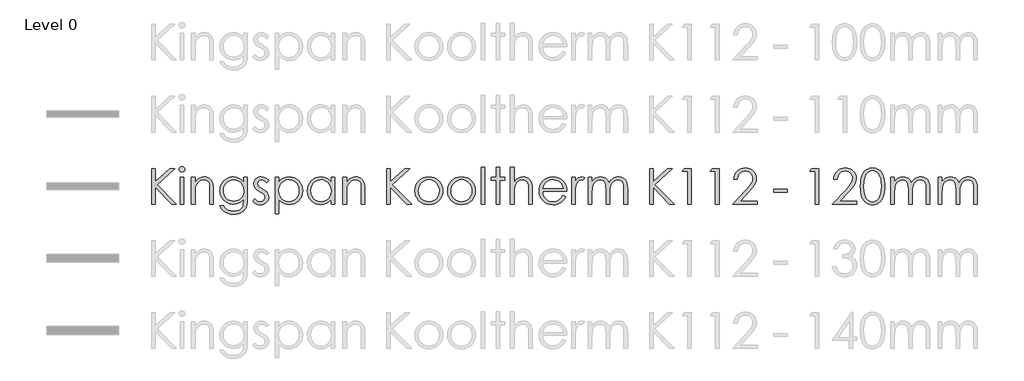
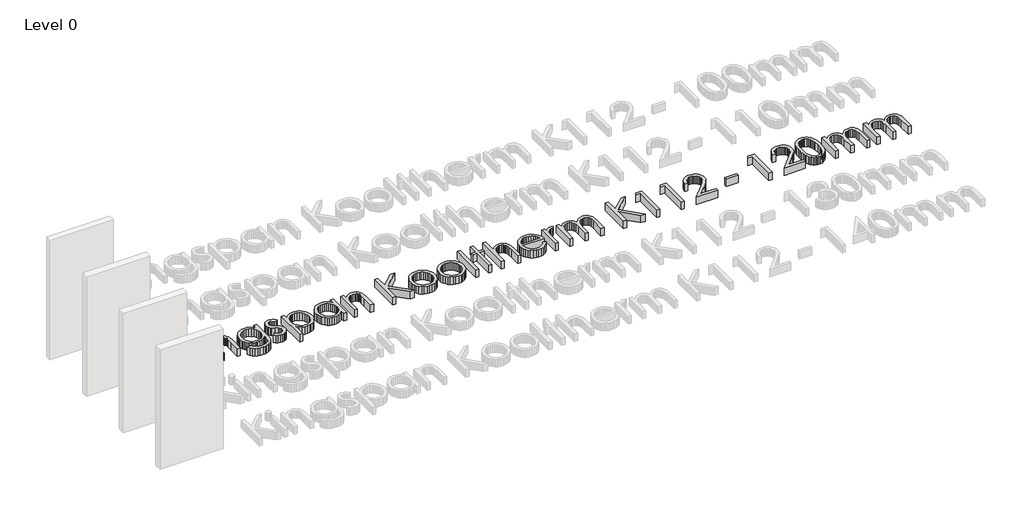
# One storey, part 4 of 14: 1 proxy.
"""IFC4 building model written with IfcOpenShell, lengths in millimetres."""

from ifc_helpers import new_model, si_unit, origin, origin_with_axes, place, context, project, spatial, polyline, outline, extrude, element, save

model = new_model("IFC4")

# Units and contexts
model_context = context("Model", 3, world=origin())
ifc_project = project(units=[si_unit("LENGTHUNIT", "METRE", prefix="MILLI")], contexts=[model_context])

# Site, building, storey
site = spatial("IfcSite", under=ifc_project)
building = spatial("IfcBuilding", under=site)
storey = spatial("IfcBuildingStorey", under=building, Name="Level 0", Elevation=0.0)

# Proxy
placement = place(None, origin())
element("IfcBuildingElementProxy", 1, Name="600mm KI_CenturyGothic", ObjectType="600mm KI_CenturyGothic", at=placement, inside=storey, context=model_context, shape_type="SweptSolid", body=[
    extrude(outline(polyline([(-3852.2663848, -6099.1034017), (-3792.944575, -6099.1034017), (-3792.944575, -6318.316027), (-3555.1938841, -6099.1034017), (-3471.6181051, -6099.1034017), (-3760.9664119, -6366.0515459), (-3441.9572002, -6692.3214999), (-3520.8984627, -6692.3214999), (-3792.944575, -6414.0960325), (-3792.944575, -6692.3214999), (-3852.2663848, -6692.3214999), (-3852.2663848, -6099.1034017)])), origin_with_axes(), (0.0, 0.0, 1.0), 150.0),
    extrude(outline(polyline([(-3348.1854852, -6069.4424967), (-3329.145347, -6072.7252792), (-3313.1176445, -6082.5736265), (-3302.226531, -6097.0178693), (-3298.5961598, -6114.088338), (-3302.226531, -6130.9270809), (-3313.1176445, -6145.2940817), (-3329.145347, -6155.142429), (-3348.1854852, -6158.4252115), (-3366.9938975, -6155.142429), (-3382.9443581, -6145.2940817), (-3393.8354717, -6130.9270809), (-3397.4658428, -6114.088338), (-3393.8354717, -6097.0178693), (-3382.9443581, -6082.5736265), (-3366.9938975, -6072.7252792), (-3348.1854852, -6069.4424967)])), origin_with_axes(), (0.0, 0.0, 1.0), 150.0),
    extrude(outline(polyline([(-3377.6919062, -6247.4079262), (-3318.3700964, -6247.4079262), (-3318.3700964, -6692.3214999), (-3377.6919062, -6692.3214999), (-3377.6919062, -6247.4079262)])), origin_with_axes(), (0.0, 0.0, 1.0), 150.0),
    extrude(outline(polyline([(-3189.8395084, -6247.4079262), (-3130.5176986, -6247.4079262), (-3130.5176986, -6326.5036726), (-3096.9946967, -6286.9944204), (-3060.0730495, -6259.303185), (-3019.7141359, -6242.9665147), (-2975.879335, -6237.5209579), (-2953.4357238, -6239.0995901), (-2932.2955704, -6243.8354865), (-2912.4588747, -6251.7286472), (-2893.9256368, -6262.7790723), (-2877.212412, -6276.5039994), (-2862.835756, -6292.4206667), (-2841.0921499, -6330.8292213), (-2833.6238199, -6355.2087086), (-2828.2892984, -6385.5551357), (-2824.0216812, -6464.1488095), (-2824.0216812, -6692.3214999), (-2883.343491, -6692.3214999), (-2883.343491, -6479.1337458), (-2883.343491, -6376.092998), (-2884.7290183, -6355.2956057), (-2889.8125035, -6337.2403023), (-2898.2849788, -6321.9270877), (-2910.1464442, -6309.355962), (-2924.7403432, -6299.5558909), (-2941.4101193, -6292.5558401), (-2980.977303, -6286.9557994), (-3005.3471351, -6289.1137461), (-3028.4038541, -6295.5875862), (-3050.1474602, -6306.3773197), (-3070.5779533, -6321.4829466), (-3088.6622225, -6339.7651482), (-3103.3671568, -6360.084606), (-3114.6927562, -6382.44132), (-3122.6390208, -6406.8352901), (-3128.5480292, -6453.9142525), (-3130.5176986, -6528.4141035), (-3130.5176986, -6692.3214999), (-3189.8395084, -6692.3214999), (-3189.8395084, -6247.4079262)])), origin_with_axes(), (0.0, 0.0, 1.0), 150.0),
    extrude(outline(polyline([(-2319.7862977, -6247.4079262), (-2260.4644879, -6247.4079262), (-2260.4644879, -6598.395301), (-2264.5196897, -6678.6496765), (-2269.588692, -6709.4499001), (-2276.6852953, -6734.0321474), (-2289.9371156, -6762.6454585), (-2307.2924139, -6787.7732271), (-2328.7511904, -6809.4154531), (-2354.3134448, -6827.5721366), (-2383.3226209, -6841.9343098), (-2415.122162, -6852.1930049), (-2449.7120682, -6858.348222), (-2487.0923395, -6860.3999611), (-2541.0458345, -6856.3833802), (-2589.206184, -6844.3336376), (-2630.260275, -6825.5059147), (-2662.8949946, -6801.1553932), (-2690.2000204, -6767.8061856), (-2715.2650299, -6721.9824048), (-2655.94322, -6721.9824048), (-2642.4355358, -6743.151524), (-2627.0933555, -6761.3951046), (-2609.9166791, -6776.7131468), (-2590.9055067, -6789.1056506), (-2569.7894914, -6798.6691682), (-2546.2982864, -6805.5002523), (-2492.1903075, -6810.9651195), (-2438.5071593, -6805.6354257), (-2415.083541, -6798.9733084), (-2393.93856, -6789.6463441), (-2359.6624492, -6765.6047903), (-2336.8567664, -6736.1176798), (-2329.3884364, -6717.4782342), (-2324.0539149, -6693.7697863), (-2319.7862977, -6631.1458835), (-2319.7862977, -6608.4367532), (-2354.757586, -6644.2190818), (-2396.6420279, -6670.6165148), (-2443.392712, -6686.8952536), (-2492.9627269, -6692.3214999), (-2522.4063889, -6690.4242447), (-2550.9521133, -6684.7324793), (-2578.5999001, -6675.2462036), (-2605.3497494, -6661.9654175), (-2630.1540674, -6645.4742634), (-2651.9652601, -6626.3568832), (-2670.7833277, -6604.6132772), (-2686.6082702, -6580.2434451), (-2699.1456025, -6553.9280817), (-2708.1008399, -6526.3478816), (-2713.4739824, -6497.5028447), (-2715.2650299, -6467.392971), (-2713.3967404, -6437.1044753), (-2707.7918722, -6407.8780563), (-2698.4504251, -6379.713714), (-2685.3723991, -6352.6114483), (-2668.9971079, -6327.4257483), (-2649.7638648, -6305.0111029), (-2627.67267, -6285.367512), (-2602.7235235, -6268.4949758), (-2575.9833294, -6254.943843), (-2548.5189922, -6245.2644624), (-2520.3305117, -6239.456834), (-2491.4178881, -6237.5209579), (-2444.5320306, -6242.4644421), (-2400.8903346, -6257.2948945), (-2359.6045177, -6283.8661218), (-2319.7862977, -6324.0319306), (-2319.7862977, -6247.4079262)]), holes=[polyline([(-2484.1571458, -6286.9557994), (-2529.0154023, -6292.9806707), (-2570.5908765, -6311.0552847), (-2606.2187212, -6339.7699758), (-2633.2340897, -6377.7150788), (-2650.2659375, -6421.9940208), (-2655.94322, -6469.7102292), (-2653.0080263, -6505.6229036), (-2644.2024452, -6538.2817613), (-2629.5264766, -6567.6868023), (-2608.9801206, -6593.8380266), (-2583.7606272, -6615.296803), (-2555.0652466, -6630.6245004), (-2522.8939786, -6639.8211189), (-2487.2468234, -6642.8866584), (-2451.3244937, -6639.845257), (-2419.1001219, -6630.7210528), (-2390.573708, -6615.5140459), (-2365.7452519, -6594.2242363), (-2345.6382095, -6567.9812872), (-2331.2760363, -6537.9148621), (-2322.6587323, -6504.024961), (-2319.7862977, -6466.3115838), (-2325.0773706, -6417.6105407), (-2340.9505892, -6374.3936754), (-2366.4983608, -6338.1672056), (-2400.8130926, -6310.4373492), (-2440.9982119, -6292.8261869), (-2484.1571458, -6286.9557994)])]), origin_with_axes(), (0.0, 0.0, 1.0), 150.0),
    extrude(outline(polyline([(-1904.5336289, -6298.6965743), (-1940.9918246, -6336.390641), (-1962.9575012, -6314.7628978), (-1984.6721416, -6299.3145098), (-2006.1357456, -6290.045477), (-2027.3483133, -6286.9557994), (-2052.181597, -6291.6289368), (-2073.2300256, -6305.6483489), (-2087.5970264, -6325.8857371), (-2092.3860267, -6349.212803), (-2088.4466878, -6370.7633042), (-2076.628671, -6391.2324183), (-2052.0657341, -6413.400855), (-2010.2006027, -6439.122421), (-1958.3326401, -6471.9888664), (-1939.8428507, -6487.8138088), (-1926.315856, -6503.2332311), (-1909.9791857, -6535.9065716), (-1904.5336289, -6572.4420092), (-1906.9474396, -6598.5884059), (-1914.1888714, -6622.6492701), (-1926.2579245, -6644.624602), (-1943.1545989, -6664.5144015), (-1963.6719892, -6681.0055557), (-1986.6031901, -6692.7849515), (-2011.9482016, -6699.852589), (-2039.7070237, -6702.2084682), (-2077.4397114, -6698.3270607), (-2113.3958344, -6686.6828383), (-2145.4512394, -6668.2027042), (-2171.4817731, -6643.8135617), (-2135.7959969, -6603.3387852), (-2114.0041146, -6624.9665283), (-2091.5749863, -6640.4149163), (-2068.5086121, -6649.6839491), (-2044.8049918, -6652.7736267), (-2013.637869, -6647.1349651), (-1987.4914724, -6630.2189802), (-1969.7644472, -6605.6560434), (-1963.8554388, -6577.0765256), (-1967.7561567, -6553.2860081), (-1979.4583106, -6532.2762005), (-2005.0253927, -6510.5712154), (-2050.2119275, -6483.7682622), (-2099.762632, -6453.1032121), (-2117.441381, -6437.9444814), (-2130.3890611, -6422.9016136), (-2146.3781427, -6390.7689666), (-2151.7078365, -6354.310771), (-2149.5305794, -6330.2643896), (-2142.9988078, -6308.3325063), (-2132.1125219, -6288.5151211), (-2116.8717217, -6270.812234), (-2098.309518, -6256.2473007), (-2077.4590218, -6245.8437769), (-2054.3202332, -6239.6016627), (-2028.8931521, -6237.5209579), (-1997.9481, -6241.3444339), (-1966.9064954, -6252.814862), (-1935.7683384, -6271.9322421), (-1904.5336289, -6298.6965743)])), origin_with_axes(), (0.0, 0.0, 1.0), 150.0),
    extrude(outline(polyline([(-1795.7769776, -6247.4079262), (-1736.4551678, -6247.4079262), (-1736.4551678, -6328.5119631), (-1700.9238754, -6288.2689124), (-1660.4490989, -6259.9211205), (-1614.9922173, -6243.1209986), (-1564.5146096, -6237.5209579), (-1520.0618732, -6241.7596094), (-1478.9305402, -6254.4755637), (-1441.1206107, -6275.668821), (-1406.6320845, -6305.3393811), (-1377.9077381, -6340.9768811), (-1357.3903478, -6380.070958), (-1345.0799137, -6422.6216116), (-1340.9764356, -6468.628842), (-1345.0412927, -6515.5291824), (-1357.235864, -6558.7508754), (-1377.5601494, -6598.293921), (-1406.014149, -6634.1583192), (-1440.2130179, -6663.9302594), (-1477.7719111, -6685.1959309), (-1518.6908288, -6697.9553339), (-1562.9697708, -6702.2084682), (-1612.6170277, -6696.743601), (-1658.0545988, -6680.3489992), (-1699.3211052, -6653.1019049), (-1736.4551678, -6615.07956), (-1736.4551678, -6850.5129928), (-1795.7769776, -6850.5129928), (-1795.7769776, -6247.4079262)]), holes=[polyline([(-1568.5311905, -6286.9557994), (-1602.5852307, -6290.2530647), (-1633.8392507, -6300.1448607), (-1662.2932503, -6316.6311872), (-1687.9472295, -6339.7120444), (-1709.1694525, -6367.6977647), (-1724.3281832, -6398.8986808), (-1733.4234216, -6433.3147926), (-1736.4551678, -6470.9461002), (-1731.048232, -6519.8016272), (-1714.8274246, -6563.4819442), (-1688.5265441, -6600.3263495), (-1652.8793888, -6628.6741414), (-1611.4390881, -6646.7487554), (-1567.7587711, -6652.7736267), (-1525.0632888, -6646.7101344), (-1485.0326535, -6628.5196576), (-1450.2544701, -6599.4187567), (-1423.3163435, -6560.6239924), (-1406.05277, -6515.9588407), (-1400.2982454, -6469.2467775), (-1405.9948385, -6422.3029886), (-1423.0846177, -6377.8695627), (-1449.8103289, -6339.5189395), (-1484.414718, -6310.8235589), (-1524.7157001, -6292.9227393), (-1568.5311905, -6286.9557994)])]), origin_with_axes(), (0.0, 0.0, 1.0), 150.0),
    extrude(outline(polyline([(-807.0801472, -6247.4079262), (-807.0801472, -6692.3214999), (-866.401957, -6692.3214999), (-866.401957, -6616.4699149), (-903.4780882, -6654.3184655), (-944.8797679, -6681.0441767), (-990.4525125, -6696.9173953), (-1040.0418379, -6702.2084682), (-1084.3159523, -6697.9553339), (-1125.2203871, -6685.1959309), (-1162.7551422, -6663.9302594), (-1196.9202178, -6634.1583192), (-1225.340424, -6598.293921), (-1245.6405713, -6558.7508754), (-1257.8206597, -6515.5291824), (-1261.8806892, -6468.628842), (-1257.7820388, -6422.6216116), (-1245.4860875, -6380.070958), (-1224.9928353, -6340.9768811), (-1196.3022822, -6305.3393811), (-1161.8475494, -6275.668821), (-1124.061758, -6254.4755637), (-1082.9449079, -6241.7596094), (-1038.4969991, -6237.5209579), (-987.7490446, -6243.1209986), (-942.0990581, -6259.9211205), (-921.2051134, -6272.6081091), (-901.6242816, -6288.2689124), (-866.401957, -6328.5119631), (-866.401957, -6247.4079262), (-807.0801472, -6247.4079262)]), holes=[polyline([(-1034.3259343, -6286.9557994), (-1078.1414247, -6292.9227393), (-1118.4424068, -6310.8235589), (-1153.0467959, -6339.5189395), (-1179.7725071, -6377.8695627), (-1196.8622863, -6422.3029886), (-1202.5588794, -6469.2467775), (-1196.8043548, -6515.9588407), (-1179.5407813, -6560.6239924), (-1152.6026548, -6599.4187567), (-1117.8244713, -6628.5196576), (-1077.6779731, -6646.7101344), (-1034.6349021, -6652.7736267), (-991.0125165, -6646.7487554), (-949.7460102, -6628.6741414), (-914.2726493, -6600.3263495), (-888.0297002, -6563.4819442), (-871.8088928, -6519.8016272), (-866.401957, -6470.9461002), (-869.4337032, -6433.3147926), (-878.5289416, -6398.8986808), (-893.6876723, -6367.6977647), (-914.9098953, -6339.7120444), (-940.5638746, -6316.6311872), (-969.0178742, -6300.1448607), (-1000.2718941, -6290.2530647), (-1034.3259343, -6286.9557994)])]), origin_with_axes(), (0.0, 0.0, 1.0), 150.0),
    extrude(outline(polyline([(-668.662591, -6247.4079262), (-609.3407811, -6247.4079262), (-609.3407811, -6326.5036726), (-575.8177792, -6286.9944204), (-538.896132, -6259.303185), (-498.5372184, -6242.9665147), (-454.7024175, -6237.5209579), (-432.2588064, -6239.0995901), (-411.1186529, -6243.8354865), (-391.2819572, -6251.7286472), (-372.7487193, -6262.7790723), (-356.0354946, -6276.5039994), (-341.6588385, -6292.4206667), (-319.9152324, -6330.8292213), (-312.4469024, -6355.2087086), (-307.1123809, -6385.5551357), (-302.8447637, -6464.1488095), (-302.8447637, -6692.3214999), (-362.1665735, -6692.3214999), (-362.1665735, -6479.1337458), (-362.1665735, -6376.092998), (-363.5521008, -6355.2956057), (-368.635586, -6337.2403023), (-377.1080613, -6321.9270877), (-388.9695267, -6309.355962), (-403.5634257, -6299.5558909), (-420.2332018, -6292.5558401), (-459.8003855, -6286.9557994), (-484.1702176, -6289.1137461), (-507.2269366, -6295.5875862), (-528.9705427, -6306.3773197), (-549.4010358, -6321.4829466), (-567.485305, -6339.7651482), (-582.1902393, -6360.084606), (-593.5158387, -6382.44132), (-601.4621033, -6406.8352901), (-607.3711117, -6453.9142525), (-609.3407811, -6528.4141035), (-609.3407811, -6692.3214999), (-668.662591, -6692.3214999), (-668.662591, -6247.4079262)])), origin_with_axes(), (0.0, 0.0, 1.0), 150.0),
    extrude(outline(polyline([(62.9730635, -6099.1034017), (122.2948734, -6099.1034017), (122.2948734, -6318.316027), (360.0455643, -6099.1034017), (443.6213432, -6099.1034017), (154.2730365, -6366.0515459), (473.2822481, -6692.3214999), (394.3409856, -6692.3214999), (122.2948734, -6414.0960325), (122.2948734, -6692.3214999), (62.9730635, -6692.3214999), (62.9730635, -6099.1034017)])), origin_with_axes(), (0.0, 0.0, 1.0), 150.0),
    extrude(outline(polyline([(760.1588128, -6237.5209579), (809.4681362, -6242.1458191), (854.3553585, -6256.0204025), (894.8204798, -6279.1447083), (930.8635, -6311.5187363), (957.7630055, -6346.7507161), (976.9769381, -6385.091684), (988.5052976, -6426.54164), (992.3480841, -6471.1005841), (988.283227, -6515.9153921), (976.0886558, -6557.8239721), (955.7643703, -6596.8263241), (927.3103707, -6632.9224481), (892.4742558, -6663.2350819), (853.0036246, -6684.8869632), (808.8984769, -6697.8780919), (760.1588128, -6702.2084682), (711.2839754, -6697.8780919), (667.0822753, -6684.8869632), (627.5537126, -6663.2350819), (592.6982872, -6632.9224481), (564.2442876, -6596.8263241), (543.9200022, -6557.8239721), (531.7254309, -6515.9153921), (527.6605738, -6471.1005841), (531.5033603, -6426.7347449), (543.0317198, -6385.4006518), (562.2456524, -6347.0983049), (589.145158, -6311.8277041), (625.2074886, -6279.3185026), (665.7305413, -6256.0976445), (710.7143161, -6242.1651295), (760.1588128, -6237.5209579)]), holes=[polyline([(760.004329, -6286.9557994), (725.7282181, -6290.3303067), (693.9624704, -6300.4538284), (664.7070856, -6317.3263647), (637.962064, -6340.9479154), (615.6584538, -6369.3584664), (599.7273037, -6400.5980035), (590.1686137, -6434.6665266), (586.9823836, -6471.5640357), (592.7948396, -6519.2995546), (610.2322075, -6563.6364281), (637.5758543, -6601.4270471), (673.1071466, -6629.5238028), (714.6439998, -6646.9611707), (760.004329, -6652.7736267), (805.3646581, -6646.9611707), (846.9015113, -6629.5238028), (882.4328037, -6601.4270471), (909.7764504, -6563.6364281), (927.2138183, -6519.2995546), (933.0262743, -6471.5640357), (929.8255614, -6434.6665266), (920.2234227, -6400.5980035), (904.2198583, -6369.3584664), (881.8148681, -6340.9479154), (854.9974321, -6317.3263647), (825.7565303, -6300.4538284), (794.0921625, -6290.3303067), (760.004329, -6286.9557994)])]), origin_with_axes(), (0.0, 0.0, 1.0), 150.0),
    extrude(outline(polyline([(1303.9420695, -6237.5209579), (1353.2513929, -6242.1458191), (1398.1386152, -6256.0204025), (1438.6037365, -6279.1447083), (1474.6467567, -6311.5187363), (1501.5462622, -6346.7507161), (1520.7601948, -6385.091684), (1532.2885543, -6426.54164), (1536.1313408, -6471.1005841), (1532.0664837, -6515.9153921), (1519.8719125, -6557.8239721), (1499.547627, -6596.8263241), (1471.0936274, -6632.9224481), (1436.2575126, -6663.2350819), (1396.7868813, -6684.8869632), (1352.6817336, -6697.8780919), (1303.9420695, -6702.2084682), (1255.0672321, -6697.8780919), (1210.865532, -6684.8869632), (1171.3369693, -6663.2350819), (1136.4815439, -6632.9224481), (1108.0275443, -6596.8263241), (1087.7032589, -6557.8239721), (1075.5086876, -6515.9153921), (1071.4438305, -6471.1005841), (1075.286617, -6426.7347449), (1086.8149766, -6385.4006518), (1106.0289091, -6347.0983049), (1132.9284147, -6311.8277041), (1168.9907453, -6279.3185026), (1209.5137981, -6256.0976445), (1254.4975728, -6242.1651295), (1303.9420695, -6237.5209579)]), holes=[polyline([(1303.7875857, -6286.9557994), (1269.5114748, -6290.3303067), (1237.7457271, -6300.4538284), (1208.4903423, -6317.3263647), (1181.7453207, -6340.9479154), (1159.4417105, -6369.3584664), (1143.5105604, -6400.5980035), (1133.9518704, -6434.6665266), (1130.7656404, -6471.5640357), (1136.5780963, -6519.2995546), (1154.0154643, -6563.6364281), (1181.359111, -6601.4270471), (1216.8904033, -6629.5238028), (1258.4272565, -6646.9611707), (1303.7875857, -6652.7736267), (1349.1479149, -6646.9611707), (1390.684768, -6629.5238028), (1426.2160604, -6601.4270471), (1453.5597071, -6563.6364281), (1470.997075, -6519.2995546), (1476.809531, -6471.5640357), (1473.6088181, -6434.6665266), (1464.0066795, -6400.5980035), (1448.003115, -6369.3584664), (1425.5981249, -6340.9479154), (1398.7806889, -6317.3263647), (1369.539787, -6300.4538284), (1337.8754193, -6290.3303067), (1303.7875857, -6286.9557994)])]), origin_with_axes(), (0.0, 0.0, 1.0), 150.0),
    extrude(outline(polyline([(1635.0010238, -6079.3294651), (1694.3228337, -6079.3294651), (1694.3228337, -6692.3214999), (1635.0010238, -6692.3214999), (1635.0010238, -6079.3294651)])), origin_with_axes(), (0.0, 0.0, 1.0), 150.0),
    extrude(outline(polyline([(1882.1752314, -6079.3294651), (1941.4970413, -6079.3294651), (1941.4970413, -6247.4079262), (2020.5927877, -6247.4079262), (2020.5927877, -6296.8427677), (1941.4970413, -6296.8427677), (1941.4970413, -6692.3214999), (1882.1752314, -6692.3214999), (1882.1752314, -6296.8427677), (1803.079485, -6296.8427677), (1803.079485, -6247.4079262), (1882.1752314, -6247.4079262), (1882.1752314, -6079.3294651)])), origin_with_axes(), (0.0, 0.0, 1.0), 150.0),
    extrude(outline(polyline([(2119.4624707, -6079.3294651), (2178.7842806, -6079.3294651), (2178.7842806, -6328.0485114), (2212.5583188, -6288.3461544), (2249.6151394, -6260.0756044), (2289.9161216, -6243.1596195), (2333.4226442, -6237.5209579), (2355.8662553, -6239.0995901), (2377.0064088, -6243.8354865), (2396.8431044, -6251.7286472), (2415.3763424, -6262.7790723), (2432.0895671, -6276.4895166), (2446.4662232, -6292.3627352), (2468.2098293, -6330.5974955), (2475.6781593, -6354.9045684), (2481.0126808, -6385.2654784), (2485.280298, -6464.1488095), (2485.280298, -6692.3214999), (2425.9584882, -6692.3214999), (2425.9584882, -6479.1337458), (2424.5681332, -6414.752589), (2420.3970685, -6376.092998), (2406.879729, -6337.2403023), (2397.1665551, -6321.9270877), (2385.4837117, -6309.355962), (2371.840854, -6299.5558909), (2356.2476374, -6292.5558401), (2319.2101273, -6286.9557994), (2296.3416854, -6289.1137461), (2274.6994594, -6295.5875862), (2254.2834492, -6306.3773197), (2235.0936547, -6321.4829466), (2218.1052556, -6339.7651482), (2204.2934312, -6360.084606), (2193.6581816, -6382.44132), (2186.1995068, -6406.8352901), (2180.6380871, -6453.6825267), (2178.7842806, -6528.4141035), (2178.7842806, -6692.3214999), (2119.4624707, -6692.3214999), (2119.4624707, -6079.3294651)])), origin_with_axes(), (0.0, 0.0, 1.0), 150.0),
    extrude(outline(polyline([(2991.0605203, -6544.0169753), (3038.950523, -6569.1978477), (3013.3255094, -6611.0822896), (2984.0315038, -6644.0452875), (2950.952643, -6669.1296074), (2913.9730643, -6687.3780157), (2872.4941426, -6698.5008551), (2825.9172528, -6702.2084682), (2774.4258447, -6697.7767119), (2728.8627554, -6684.481443), (2689.227985, -6662.3226615), (2655.5215335, -6631.3003674), (2628.6220279, -6594.6973431), (2609.4080954, -6555.7963712), (2597.8797358, -6514.5974515), (2594.0369493, -6471.1005841), (2597.3197318, -6430.2202874), (2607.1680791, -6391.618628), (2623.5819913, -6355.2956057), (2646.5614684, -6321.2512207), (2682.7493173, -6284.6192308), (2724.5758277, -6258.4535236), (2772.0409998, -6242.7540993), (2825.1448334, -6237.5209579), (2879.7935059, -6242.8892727), (2928.6490329, -6258.9942172), (2971.7114143, -6285.8357913), (3008.9806503, -6323.4139951), (3030.4539096, -6355.585263), (3045.9022976, -6391.541386), (3055.3258143, -6431.2823641), (3058.7244596, -6474.8081972), (2653.3587591, -6474.8081972), (2657.095338, -6512.0629503), (2666.6057518, -6545.8128504), (2681.8900007, -6576.0578975), (2702.9480845, -6602.7980916), (2728.3124066, -6624.6623882), (2756.5153699, -6640.2797429), (2787.5569744, -6649.6501557), (2821.4372203, -6652.7736267), (2854.9602222, -6649.761191), (2887.5563208, -6640.7238841), (2917.2944677, -6626.6851615), (2942.2436143, -6608.668479), (2965.725164, -6582.5027719), (2991.0605203, -6544.0169753)]), holes=[polyline([(2999.4026498, -6425.3733557), (2984.9777175, -6382.8516678), (2965.1844704, -6349.8307385), (2939.0766947, -6324.3022774), (2905.7081767, -6304.257994), (2867.7630738, -6291.2813481), (2827.9255433, -6286.9557994), (2795.503239, -6289.6689226), (2765.4368139, -6297.808292), (2737.726268, -6311.3739077), (2712.3716012, -6330.3657696), (2695.8321708, -6348.179692), (2681.4362043, -6369.9522638), (2669.1837016, -6395.683485), (2659.0746627, -6425.3733557), (2999.4026498, -6425.3733557)])]), origin_with_axes(), (0.0, 0.0, 1.0), 150.0),
    extrude(outline(polyline([(3137.820206, -6247.4079262), (3197.1420159, -6247.4079262), (3197.1420159, -6311.8277041), (3222.6897875, -6278.7874643), (3249.589293, -6255.6728138), (3277.7632906, -6242.0589219), (3307.1345382, -6237.5209579), (3330.4616041, -6241.305813), (3355.3335087, -6252.6603781), (3325.8270877, -6294.6799934), (3297.2475699, -6286.9557994), (3270.8308265, -6292.9034288), (3245.3409863, -6310.7463169), (3223.2884125, -6341.1023993), (3207.183468, -6384.5896114), (3199.6523789, -6442.7141712), (3197.1420159, -6540.1548783), (3197.1420159, -6692.3214999), (3137.820206, -6692.3214999), (3137.820206, -6247.4079262)])), origin_with_axes(), (0.0, 0.0, 1.0), 150.0),
    extrude(outline(polyline([(3414.6553185, -6247.4079262), (3473.9771284, -6247.4079262), (3473.9771284, -6323.5684789), (3503.5607913, -6287.0716623), (3533.9168737, -6261.9294109), (3577.3268439, -6243.6230712), (3622.8995884, -6237.5209579), (3653.7384329, -6240.668567), (3682.9165757, -6250.1113941), (3708.6767627, -6264.7873627), (3729.2617397, -6283.634396), (3746.0425511, -6309.0663047), (3760.3902414, -6343.4968994), (3775.16759, -6319.0981017), (3791.6925376, -6297.808292), (3809.965084, -6279.6274704), (3829.9852293, -6264.5556369), (3851.2798666, -6252.7279648), (3873.375889, -6244.2796277), (3896.2732965, -6239.2106253), (3919.9720892, -6237.5209579), (3962.3006723, -6243.3334139), (3981.4952943, -6250.5989839), (3999.3768034, -6260.7707818), (4015.4914031, -6273.53984), (4029.385297, -6288.5971907), (4050.5109676, -6325.5767694), (4057.8103309, -6348.9521114), (4063.0241619, -6377.5219739), (4067.1952266, -6450.2452603), (4067.1952266, -6692.3214999), (4007.8734168, -6692.3214999), (4007.8734168, -6446.6921311), (4005.4209852, -6385.5744462), (3998.0636904, -6347.1272706), (3984.7587663, -6322.6608861), (3964.4634466, -6303.4855746), (3938.3942919, -6291.0882432), (3907.7678627, -6286.9557994), (3888.1194443, -6288.5054659), (3869.3399976, -6293.1544651), (3834.3880198, -6311.7504621), (3805.6540182, -6340.6968791), (3785.8800816, -6377.9468046), (3779.1889985, -6402.1042213), (3774.4096535, -6433.1747916), (3770.5861775, -6516.0553931), (3770.5861775, -6692.3214999), (3711.2643677, -6692.3214999), (3711.2643677, -6461.9860352), (3708.850557, -6393.530366), (3701.6091252, -6351.2983353), (3688.3621325, -6325.0553863), (3667.9316394, -6304.5669617), (3641.6114484, -6291.35859), (3610.6953619, -6286.9557994), (3573.7544042, -6292.9999812), (3539.2465676, -6311.1325266), (3510.2808401, -6339.499629), (3489.9662099, -6376.2474819), (3477.9743988, -6428.0768236), (3473.9771284, -6501.6883923), (3473.9771284, -6692.3214999), (3414.6553185, -6692.3214999), (3414.6553185, -6247.4079262)])), origin_with_axes(), (0.0, 0.0, 1.0), 150.0),
    extrude(outline(polyline([(4433.0130538, -6099.1034017), (4492.3348637, -6099.1034017), (4492.3348637, -6318.316027), (4730.0855546, -6099.1034017), (4813.6613335, -6099.1034017), (4524.3130268, -6366.0515459), (4843.3222385, -6692.3214999), (4764.3809759, -6692.3214999), (4492.3348637, -6414.0960325), (4492.3348637, -6692.3214999), (4433.0130538, -6692.3214999), (4433.0130538, -6099.1034017)])), origin_with_axes(), (0.0, 0.0, 1.0), 150.0),
    extrude(outline(polyline([(5010.6282802, -6099.1034017), (5125.1008351, -6099.1034017), (5125.1008351, -6692.3214999), (5065.7790253, -6692.3214999), (5065.7790253, -6148.5382432), (4976.7963106, -6148.5382432), (5010.6282802, -6099.1034017)])), origin_with_axes(), (0.0, 0.0, 1.0), 150.0),
    extrude(outline(polyline([(5475.3157905, -6099.1034017), (5589.7883454, -6099.1034017), (5589.7883454, -6692.3214999), (5530.4665356, -6692.3214999), (5530.4665356, -6148.5382432), (5441.4838208, -6148.5382432), (5475.3157905, -6099.1034017)])), origin_with_axes(), (0.0, 0.0, 1.0), 150.0),
    extrude(outline(polyline([(5896.2843628, -6277.0688311), (5836.962553, -6277.0688311), (5841.4474131, -6237.8106152), (5852.5847353, -6202.2213914), (5870.3745196, -6170.3011597), (5894.816766, -6142.0499202), (5924.2121517, -6118.9352697), (5956.8613542, -6102.4248051), (5992.7643733, -6092.5185263), (6031.9212092, -6089.2164334), (6070.3925229, -6092.5136987), (6105.0113948, -6102.4054946), (6135.777825, -6118.8918211), (6162.6918135, -6141.9726783), (6184.5561101, -6169.533568), (6200.1734648, -6199.459992), (6209.5438776, -6231.7519505), (6212.6673485, -6266.4094434), (6206.5845458, -6315.2070389), (6188.3361375, -6360.8763359), (6152.5538088, -6412.763609), (6093.869245, -6480.215133), (5941.084688, -6642.8866584), (6222.5543169, -6642.8866584), (6222.5543169, -6692.3214999), (5817.1886164, -6692.3214999), (6043.1985325, -6451.6356152), (6099.9327373, -6386.1151397), (6132.6446988, -6340.0210121), (6148.1703288, -6302.6552237), (6153.3455387, -6263.3197658), (6151.0958672, -6238.7133804), (6144.3468527, -6215.8739043), (6133.0984952, -6194.8013375), (6117.3507947, -6175.4956802), (6098.3396223, -6159.3762529), (6077.3008489, -6147.8623762), (6054.2344746, -6140.9540502), (6029.1404994, -6138.6512749), (6002.8058255, -6140.9250845), (5978.7980651, -6147.7465133), (5957.1172181, -6159.1155613), (5937.7632845, -6175.0322286), (5921.5279943, -6195.0523738), (5909.2030773, -6218.731856), (5900.7885334, -6246.0706751), (5896.2843628, -6277.0688311)])), origin_with_axes(), (0.0, 0.0, 1.0), 150.0),
    extrude(outline(polyline([(6499.3894294, -6445.1472923), (6726.7897004, -6445.1472923), (6726.7897004, -6494.5821338), (6499.3894294, -6494.5821338), (6499.3894294, -6445.1472923)])), origin_with_axes(), (0.0, 0.0, 1.0), 150.0),
    extrude(outline(polyline([(7136.3264656, -6099.1034017), (7250.7990205, -6099.1034017), (7250.7990205, -6692.3214999), (7191.4772106, -6692.3214999), (7191.4772106, -6148.5382432), (7102.4944959, -6148.5382432), (7136.3264656, -6099.1034017)])), origin_with_axes(), (0.0, 0.0, 1.0), 150.0),
    extrude(outline(polyline([(7557.2950379, -6277.0688311), (7497.9732281, -6277.0688311), (7502.4580882, -6237.8106152), (7513.5954104, -6202.2213914), (7531.3851947, -6170.3011597), (7555.827441, -6142.0499202), (7585.2228268, -6118.9352697), (7617.8720292, -6102.4248051), (7653.7750484, -6092.5185263), (7692.9318843, -6089.2164334), (7731.403198, -6092.5136987), (7766.0220699, -6102.4054946), (7796.7885001, -6118.8918211), (7823.7024885, -6141.9726783), (7845.5667851, -6169.533568), (7861.1841398, -6199.459992), (7870.5545527, -6231.7519505), (7873.6780236, -6266.4094434), (7867.5952208, -6315.2070389), (7849.3468125, -6360.8763359), (7813.5644839, -6412.763609), (7754.8799201, -6480.215133), (7602.095363, -6642.8866584), (7883.5649919, -6642.8866584), (7883.5649919, -6692.3214999), (7478.1992914, -6692.3214999), (7704.2092075, -6451.6356152), (7760.9434124, -6386.1151397), (7793.6553739, -6340.0210121), (7809.1810038, -6302.6552237), (7814.3562138, -6263.3197658), (7812.1065423, -6238.7133804), (7805.3575278, -6215.8739043), (7794.1091703, -6194.8013375), (7778.3614698, -6175.4956802), (7759.3502973, -6159.3762529), (7738.311524, -6147.8623762), (7715.2451497, -6140.9540502), (7690.1511745, -6138.6512749), (7663.8165006, -6140.9250845), (7639.8087401, -6147.7465133), (7618.1278932, -6159.1155613), (7598.7739596, -6175.0322286), (7582.5386694, -6195.0523738), (7570.2137523, -6218.731856), (7561.7992085, -6246.0706751), (7557.2950379, -6277.0688311)])), origin_with_axes(), (0.0, 0.0, 1.0), 150.0),
    extrude(outline(polyline([(7942.8868017, -6395.8669347), (7944.4654339, -6341.4355052), (7949.2013303, -6293.5406748), (7957.094491, -6252.1824436), (7968.1449161, -6217.3608116), (7982.0726034, -6187.7192172), (7998.5975509, -6161.9010988), (8017.7197586, -6139.9064564), (8039.4392266, -6121.73529), (8063.1331916, -6107.5082902), (8088.1788906, -6097.3461475), (8114.5763236, -6091.2488619), (8142.3254905, -6089.2164334), (8170.5284538, -6091.2633448), (8197.3603726, -6097.404079), (8222.8212471, -6107.638636), (8246.9110771, -6121.9670159), (8269.0939967, -6140.3843909), (8288.8341399, -6162.8859335), (8306.1315069, -6189.4716437), (8320.9860974, -6220.1415214), (8332.9151495, -6255.6583309), (8341.435901, -6296.7848363), (8346.5483519, -6343.5210375), (8348.2525022, -6395.8669347), (8346.57249, -6448.0535203), (8341.5324534, -6494.6207548), (8333.1323925, -6535.5686382), (8321.3723071, -6570.8971704), (8306.6625452, -6601.4222195), (8289.4134545, -6627.9596535), (8269.625035, -6650.5094723), (8247.2972868, -6669.071676), (8223.03849, -6683.5690226), (8197.4569251, -6693.9242701), (8170.5525919, -6700.1374187), (8142.3254905, -6702.2084682), (8114.6004617, -6700.2001778), (8088.2754431, -6694.1753064), (8063.3504346, -6684.1338543), (8039.8254363, -6670.0758212), (8018.2507969, -6652.0398282), (7999.1768654, -6630.0644964), (7982.6036417, -6604.1498255), (7968.5311258, -6574.2958158), (7957.311734, -6539.2762513), (7949.2978827, -6497.8649163), (7944.489572, -6450.0618107), (7942.8868017, -6395.8669347)]), holes=[polyline([(8002.2086116, -6395.7124508), (8006.5920916, -6484.038609), (8012.0714418, -6519.0195525), (8019.7425319, -6547.8790723), (8029.5570859, -6572.1185586), (8041.4668275, -6593.2394015), (8055.4717567, -6611.2416011), (8071.5718736, -6626.1251574), (8106.8714401, -6646.1115094), (8125.2743323, -6651.1080973), (8144.179297, -6652.7736267), (8163.171159, -6651.1418907), (8181.525775, -6646.2466828), (8216.3232689, -6626.665851), (8232.0806246, -6611.9898824), (8245.8296899, -6594.0697524), (8257.5704648, -6572.9054608), (8267.3029492, -6548.4970078), (8276.7650868, -6515.1381451), (8283.5237566, -6478.5544313), (8288.9306924, -6395.7124508), (8284.1030711, -6314.1063413), (8278.0685446, -6279.4150551), (8269.6202074, -6248.7982811), (8259.0380616, -6222.135329), (8246.6021093, -6199.3055082), (8232.3123504, -6180.3088186), (8216.168785, -6165.1452603), (8181.1009443, -6145.2747712), (8162.8718465, -6140.307149), (8144.179297, -6138.6512749), (8125.163297, -6140.307149), (8106.7362667, -6145.2747712), (8071.6491155, -6165.1452603), (8055.7034825, -6179.9564022), (8041.7757953, -6197.8958428), (8029.8660536, -6218.9635819), (8019.9742577, -6243.1596195), (8012.2017875, -6272.0143117), (8006.6500231, -6307.0580143), (8002.2086116, -6395.7124508)])]), origin_with_axes(), (0.0, 0.0, 1.0), 150.0),
    extrude(outline(polyline([(8447.1221852, -6247.4079262), (8506.4439951, -6247.4079262), (8506.4439951, -6323.5684789), (8536.027658, -6287.0716623), (8566.3837404, -6261.9294109), (8609.7937106, -6243.6230712), (8655.3664551, -6237.5209579), (8686.2052996, -6240.668567), (8715.3834424, -6250.1113941), (8741.1436294, -6264.7873627), (8761.7286063, -6283.634396), (8778.5094178, -6309.0663047), (8792.8571081, -6343.4968994), (8807.6344567, -6319.0981017), (8824.1594042, -6297.808292), (8842.4319506, -6279.6274704), (8862.4520959, -6264.5556369), (8883.7467332, -6252.7279648), (8905.8427557, -6244.2796277), (8928.7401632, -6239.2106253), (8952.4389559, -6237.5209579), (8994.7675389, -6243.3334139), (9013.962161, -6250.5989839), (9031.8436701, -6260.7707818), (9047.9582698, -6273.53984), (9061.8521637, -6288.5971907), (9082.9778343, -6325.5767694), (9090.2771976, -6348.9521114), (9095.4910285, -6377.5219739), (9099.6620933, -6450.2452603), (9099.6620933, -6692.3214999), (9040.3402835, -6692.3214999), (9040.3402835, -6446.6921311), (9037.8878519, -6385.5744462), (9030.5305571, -6347.1272706), (9017.225633, -6322.6608861), (8996.9303133, -6303.4855746), (8970.8611585, -6291.0882432), (8940.2347294, -6286.9557994), (8920.5863109, -6288.5054659), (8901.8068643, -6293.1544651), (8866.8548865, -6311.7504621), (8838.1208849, -6340.6968791), (8818.3469483, -6377.9468046), (8811.6558652, -6402.1042213), (8806.8765202, -6433.1747916), (8803.0530442, -6516.0553931), (8803.0530442, -6692.3214999), (8743.7312343, -6692.3214999), (8743.7312343, -6461.9860352), (8741.3174237, -6393.530366), (8734.0759919, -6351.2983353), (8720.8289992, -6325.0553863), (8700.3985061, -6304.5669617), (8674.0783151, -6291.35859), (8643.1622286, -6286.9557994), (8606.2212709, -6292.9999812), (8571.7134342, -6311.1325266), (8542.7477068, -6339.499629), (8522.4330766, -6376.2474819), (8510.4412654, -6428.0768236), (8506.4439951, -6501.6883923), (8506.4439951, -6692.3214999), (8447.1221852, -6692.3214999), (8447.1221852, -6247.4079262)])), origin_with_axes(), (0.0, 0.0, 1.0), 150.0),
    extrude(outline(polyline([(9238.0796495, -6247.4079262), (9297.4014594, -6247.4079262), (9297.4014594, -6323.5684789), (9326.9851223, -6287.0716623), (9357.3412047, -6261.9294109), (9400.7511749, -6243.6230712), (9446.3239194, -6237.5209579), (9477.1627639, -6240.668567), (9506.3409067, -6250.1113941), (9532.1010937, -6264.7873627), (9552.6860706, -6283.634396), (9569.4668821, -6309.0663047), (9583.8145724, -6343.4968994), (9598.591921, -6319.0981017), (9615.1168685, -6297.808292), (9633.389415, -6279.6274704), (9653.4095602, -6264.5556369), (9674.7041975, -6252.7279648), (9696.80022, -6244.2796277), (9719.6976275, -6239.2106253), (9743.3964202, -6237.5209579), (9785.7250032, -6243.3334139), (9804.9196253, -6250.5989839), (9822.8011344, -6260.7707818), (9838.9157341, -6273.53984), (9852.809628, -6288.5971907), (9873.9352986, -6325.5767694), (9881.2346619, -6348.9521114), (9886.4484928, -6377.5219739), (9890.6195576, -6450.2452603), (9890.6195576, -6692.3214999), (9831.2977478, -6692.3214999), (9831.2977478, -6446.6921311), (9828.8453162, -6385.5744462), (9821.4880214, -6347.1272706), (9808.1830973, -6322.6608861), (9787.8877776, -6303.4855746), (9761.8186229, -6291.0882432), (9731.1921937, -6286.9557994), (9711.5437752, -6288.5054659), (9692.7643286, -6293.1544651), (9657.8123508, -6311.7504621), (9629.0783492, -6340.6968791), (9609.3044126, -6377.9468046), (9602.6133295, -6402.1042213), (9597.8339845, -6433.1747916), (9594.0105085, -6516.0553931), (9594.0105085, -6692.3214999), (9534.6886987, -6692.3214999), (9534.6886987, -6461.9860352), (9532.274888, -6393.530366), (9525.0334562, -6351.2983353), (9511.7864635, -6325.0553863), (9491.3559704, -6304.5669617), (9465.0357794, -6291.35859), (9434.1196929, -6286.9557994), (9397.1787352, -6292.9999812), (9362.6708986, -6311.1325266), (9333.7051711, -6339.499629), (9313.3905409, -6376.2474819), (9301.3987298, -6428.0768236), (9297.4014594, -6501.6883923), (9297.4014594, -6692.3214999), (9238.0796495, -6692.3214999), (9238.0796495, -6247.4079262)])), origin_with_axes(), (0.0, 0.0, 1.0), 150.0),
])

save(model, "model.ifc")
